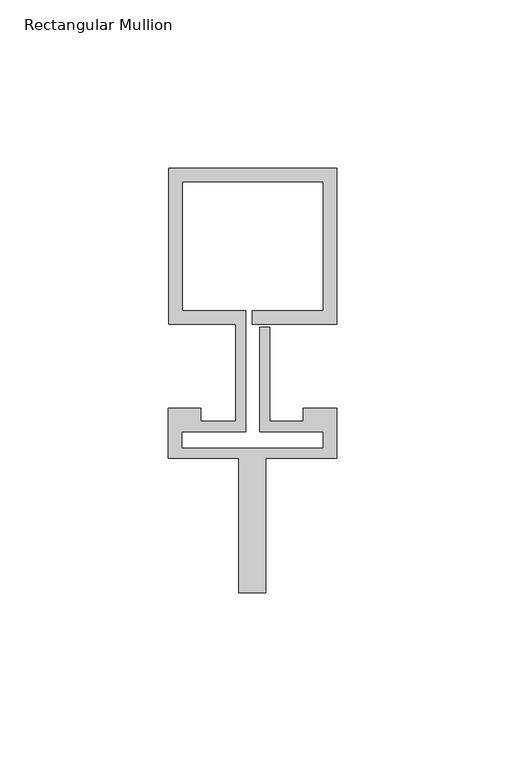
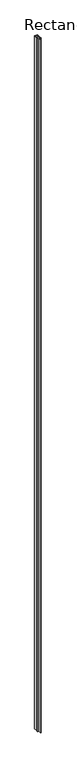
"""IFC4 building model written with IfcOpenShell, lengths in millimetres: member geometry, Rectangular Mullion : Reynaers_CW-50_Mullion-Transom_Horizontal_46.4mm_Facecap-06B."""

from ifc_helpers import new_model, si_unit, frame, origin, place, context, project, spatial, polyline, outline, extrude, source, transform, mapped, element, save


def rectangular_mullion_8afb06d2(model_context):
    return source(origin(), model_context, "Body", "SweptSolid", [
        extrude(outline(polyline([(-24.8004059, 58.9), (25.1995941, 58.9), (25.1995941, 12.5), (0.0, 12.5), (0.0, 16.5), (21.1995941, 16.5), (21.1995941, 54.9), (-20.8004059, 54.9), (-20.8004059, 16.5), (-1.9004059, 16.5), (-1.9004059, -19.5), (-20.994845, -19.5), (-20.994845, -24.4191338), (21.1995941, -24.4191338), (21.1995941, -19.5), (2.2995941, -19.5), (2.2995941, 11.5), (5.2995941, 11.5), (5.2995941, -16.5), (15.2996495, -16.5), (15.2996495, -12.5), (25.1995941, -12.5), (25.1995941, -27.5), (4.004855, -27.5), (4.004855, -67.5), (-3.995145, -67.5), (-3.995145, -27.5), (-24.994845, -27.5), (-24.994845, -12.5), (-15.2996495, -12.5), (-15.2996495, -16.5), (-4.9004059, -16.5), (-4.9004059, 12.5), (-24.8004059, 12.5), (-24.8004059, 58.9)])), frame((0.0, 0.0, -12000.0), z_axis=(0.0, 0.0, 1.0), x_axis=(1.0, 0.0, 0.0)), (0.0, 0.0, 1.0), 12000.0),
    ])


if __name__ == "__main__":
    model = new_model("IFC4")
    model_context = context("Model", 3, world=origin())
    ifc_project = project(units=[si_unit("LENGTHUNIT", "METRE", prefix="MILLI")], contexts=[model_context])
    site = spatial("IfcSite", under=ifc_project)
    building = spatial("IfcBuilding", under=site)
    placement = place(None, origin())
    rectangular_mullion_shape = rectangular_mullion_8afb06d2(model_context)
    element("IfcMember", 1, ObjectType="Rectangular Mullion : Reynaers_CW-50_Mullion-Transom_Horizontal_46.4mm_Facecap-06B", at=placement, inside=building, context=model_context, shape_type="MappedRepresentation", body=[
        mapped(rectangular_mullion_shape, transform((0.0, 0.0, 0.0), x_axis=(1.0, 0.0, 0.0), y_axis=(0.0, 1.0, 0.0), z_axis=(0.0, 0.0, 1.0))),
    ])
    save(model, "model.ifc")
